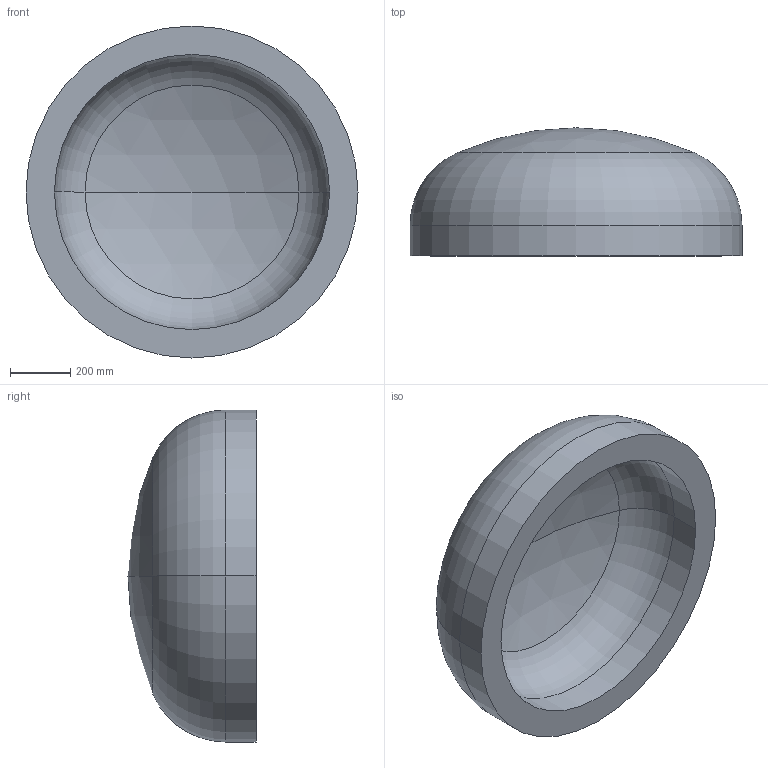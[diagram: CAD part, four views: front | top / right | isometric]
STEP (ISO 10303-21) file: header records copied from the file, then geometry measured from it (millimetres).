
FILE_DESCRIPTION (( 'STEP AP203' ), '1' );
FILE_NAME ('DIN 28013 Korbbogenform_-_Boden DIN 28013 - 1100 x 100 - I - s=94.step', '2016-07-01T09:15:19', ( '' ), ( '' ), 'SwSTEP 2.0', 'SolidWorks 2013', '' );
FILE_SCHEMA (( 'CONFIG_CONTROL_DESIGN' ));
Length unit declared in the file: millimetre
Products named in the file (1): DIN 28013 Korbbogenform_-_Boden DIN 28013 - 1100 x 100 - I - s=94
Bounding box: 1100 x 424.15 x 1100 mm (x, y, z)
Volume: 140977379.1 mm3; surface area: 3315105.8 mm2
Topology: 1 solids, 1 shells, 13 faces, 24 edges, 14 vertices
Faces by surface type: torus 4, cylinder 4, sphere 4, plane 1
Entity records: 407 total; most frequent: DIRECTION 72, CARTESIAN_POINT 52, ORIENTED_EDGE 48, AXIS2_PLACEMENT_3D 34, EDGE_CURVE 24, CIRCLE 20, VERTEX_POINT 14, EDGE_LOOP 14
